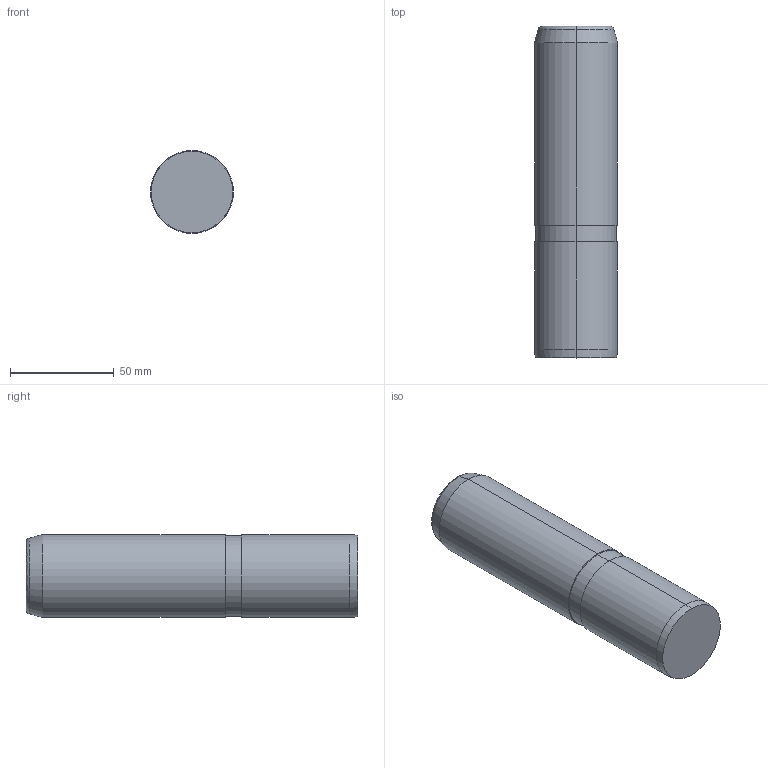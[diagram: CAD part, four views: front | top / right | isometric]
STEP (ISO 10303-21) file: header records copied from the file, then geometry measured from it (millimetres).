
FILE_DESCRIPTION (( 'STEP AP214' ), '1' );
FILE_NAME ('D13.02_40160.step', '2011-12-25T17:22:08', ( 'Dell' ), ( '' ), 'SwSTEP 2.0', 'SolidWorks 2010', '' );
FILE_SCHEMA (( 'AUTOMOTIVE_DESIGN' ));
Length unit declared in the file: millimetre
Products named in the file (1): D13.02_40160
Bounding box: 40 x 160 x 40 mm (x, y, z)
Volume: 199202.6 mm3; surface area: 22337.4 mm2
Topology: 1 solids, 1 shells, 16 faces, 32 edges, 20 vertices
Faces by surface type: cylinder 6, cone 4, plane 4, bspline 2
Entity records: 660 total; most frequent: CARTESIAN_POINT 291, DIRECTION 76, ORIENTED_EDGE 64, AXIS2_PLACEMENT_3D 33, EDGE_CURVE 32, VERTEX_POINT 20, EDGE_LOOP 18, CIRCLE 18
